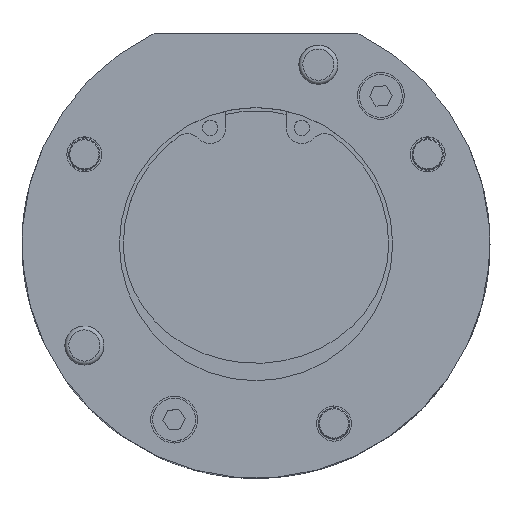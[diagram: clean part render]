
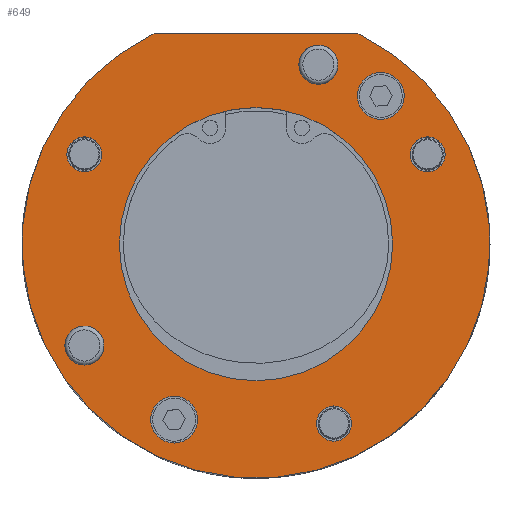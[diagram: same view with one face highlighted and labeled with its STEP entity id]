
A CAD part, top view. The second image highlights one B-rep face of the part: STEP entity #649.
In plain terms, the highlighted planar face has unit normal (0, 0, 1).
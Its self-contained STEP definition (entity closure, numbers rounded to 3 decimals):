
#649 = ADVANCED_FACE( '', ( #1283, #1284, #1285, #1286, #1287, #1288, #1289, #1290, #1291 ), #1292, .T. );
#1283 = FACE_BOUND( '', #2486, .T. );
#1284 = FACE_BOUND( '', #2487, .T. );
#1285 = FACE_BOUND( '', #2488, .T. );
#1286 = FACE_BOUND( '', #2489, .T. );
#1287 = FACE_BOUND( '', #2490, .T. );
#1288 = FACE_BOUND( '', #2491, .T. );
#1289 = FACE_OUTER_BOUND( '', #2492, .T. );
#1290 = FACE_BOUND( '', #2493, .T. );
#1291 = FACE_BOUND( '', #2494, .T. );
#1292 = PLANE( '', #2495 );
#2486 = EDGE_LOOP( '', ( #4058 ) );
#2487 = EDGE_LOOP( '', ( #4059 ) );
#2488 = EDGE_LOOP( '', ( #4060 ) );
#2489 = EDGE_LOOP( '', ( #4061 ) );
#2490 = EDGE_LOOP( '', ( #4062 ) );
#2491 = EDGE_LOOP( '', ( #4063 ) );
#2492 = EDGE_LOOP( '', ( #4064, #4065 ) );
#2493 = EDGE_LOOP( '', ( #4066 ) );
#2494 = EDGE_LOOP( '', ( #4067 ) );
#2495 = AXIS2_PLACEMENT_3D( '', #4068, #4069, #4070 );
#4058 = ORIENTED_EDGE( '', *, *, #5638, .T. );
#4059 = ORIENTED_EDGE( '', *, *, #5639, .T. );
#4060 = ORIENTED_EDGE( '', *, *, #5640, .T. );
#4061 = ORIENTED_EDGE( '', *, *, #5641, .F. );
#4062 = ORIENTED_EDGE( '', *, *, #5642, .F. );
#4063 = ORIENTED_EDGE( '', *, *, #5643, .F. );
#4064 = ORIENTED_EDGE( '', *, *, #5644, .F. );
#4065 = ORIENTED_EDGE( '', *, *, #5605, .T. );
#4066 = ORIENTED_EDGE( '', *, *, #5645, .F. );
#4067 = ORIENTED_EDGE( '', *, *, #5646, .T. );
#4068 = CARTESIAN_POINT( '', ( 0., 0., 0. ) );
#4069 = DIRECTION( '', ( 0., 0., 1. ) );
#4070 = DIRECTION( '', ( 1., 0., 0. ) );
#5605 = EDGE_CURVE( '', #6571, #6568, #6572, .T. );
#5638 = EDGE_CURVE( '', #6632, #6632, #6633, .F. );
#5639 = EDGE_CURVE( '', #6634, #6634, #6635, .T. );
#5640 = EDGE_CURVE( '', #6636, #6636, #6637, .T. );
#5641 = EDGE_CURVE( '', #6638, #6638, #6639, .T. );
#5642 = EDGE_CURVE( '', #6640, #6640, #6641, .T. );
#5643 = EDGE_CURVE( '', #6642, #6642, #6643, .T. );
#5644 = EDGE_CURVE( '', #6571, #6568, #6644, .T. );
#5645 = EDGE_CURVE( '', #6645, #6645, #6646, .T. );
#5646 = EDGE_CURVE( '', #6647, #6647, #6648, .F. );
#6568 = VERTEX_POINT( '', #8055 );
#6571 = VERTEX_POINT( '', #8059 );
#6572 = CIRCLE( '', #8060, 30. );
#6632 = VERTEX_POINT( '', #8775 );
#6633 = CIRCLE( '', #8776, 2.5 );
#6634 = VERTEX_POINT( '', #8777 );
#6635 = CIRCLE( '', #8778, 3. );
#6636 = VERTEX_POINT( '', #8779 );
#6637 = CIRCLE( '', #8780, 3. );
#6638 = VERTEX_POINT( '', #8781 );
#6639 = CIRCLE( '', #8782, 2.25 );
#6640 = VERTEX_POINT( '', #8783 );
#6641 = CIRCLE( '', #8784, 2.25 );
#6642 = VERTEX_POINT( '', #8785 );
#6643 = CIRCLE( '', #8786, 2.25 );
#6644 = LINE( '', #8787, #8788 );
#6645 = VERTEX_POINT( '', #8789 );
#6646 = CIRCLE( '', #8790, 17.518 );
#6647 = VERTEX_POINT( '', #8791 );
#6648 = CIRCLE( '', #8792, 2.5 );
#8055 = CARTESIAN_POINT( '', ( 13.077, 27., 0. ) );
#8059 = CARTESIAN_POINT( '', ( -13.077, 27., 0. ) );
#8060 = AXIS2_PLACEMENT_3D( '', #10380, #10381, #10382 );
#8775 = CARTESIAN_POINT( '', ( -19.5, -13., 0. ) );
#8776 = AXIS2_PLACEMENT_3D( '', #10424, #10425, #10426 );
#8777 = CARTESIAN_POINT( '', ( 16., 16., 0. ) );
#8778 = AXIS2_PLACEMENT_3D( '', #10427, #10428, #10429 );
#8779 = CARTESIAN_POINT( '', ( -10.5, -25.5, 0. ) );
#8780 = AXIS2_PLACEMENT_3D( '', #10430, #10431, #10432 );
#8781 = CARTESIAN_POINT( '', ( -19.75, 11.5, 0. ) );
#8782 = AXIS2_PLACEMENT_3D( '', #10433, #10434, #10435 );
#8783 = CARTESIAN_POINT( '', ( 12.25, -23., 0. ) );
#8784 = AXIS2_PLACEMENT_3D( '', #10436, #10437, #10438 );
#8785 = CARTESIAN_POINT( '', ( 24.25, 11.5, 0. ) );
#8786 = AXIS2_PLACEMENT_3D( '', #10439, #10440, #10441 );
#8787 = CARTESIAN_POINT( '', ( -27.448, 27., 0. ) );
#8788 = VECTOR( '', #10442, 1000. );
#8789 = CARTESIAN_POINT( '', ( 17.518, 0., 0. ) );
#8790 = AXIS2_PLACEMENT_3D( '', #10443, #10444, #10445 );
#8791 = CARTESIAN_POINT( '', ( 10.5, 23., 0. ) );
#8792 = AXIS2_PLACEMENT_3D( '', #10446, #10447, #10448 );
#10380 = CARTESIAN_POINT( '', ( 0., 0., 0. ) );
#10381 = DIRECTION( '', ( 0., 0., 1. ) );
#10382 = DIRECTION( '', ( 1., 0., 0. ) );
#10424 = CARTESIAN_POINT( '', ( -22., -13., 0. ) );
#10425 = DIRECTION( '', ( 0., 0., 1. ) );
#10426 = DIRECTION( '', ( 1., 0., 0. ) );
#10427 = CARTESIAN_POINT( '', ( 16., 19., 0. ) );
#10428 = DIRECTION( '', ( 0., 0., -1. ) );
#10429 = DIRECTION( '', ( 0., -1., 0. ) );
#10430 = CARTESIAN_POINT( '', ( -10.5, -22.5, 0. ) );
#10431 = DIRECTION( '', ( 0., 0., -1. ) );
#10432 = DIRECTION( '', ( 0., -1., 0. ) );
#10433 = CARTESIAN_POINT( '', ( -22., 11.5, 0. ) );
#10434 = DIRECTION( '', ( 0., 0., 1. ) );
#10435 = DIRECTION( '', ( 1., 0., 0. ) );
#10436 = CARTESIAN_POINT( '', ( 10., -23., 0. ) );
#10437 = DIRECTION( '', ( 0., 0., 1. ) );
#10438 = DIRECTION( '', ( 1., 0., 0. ) );
#10439 = CARTESIAN_POINT( '', ( 22., 11.5, 0. ) );
#10440 = DIRECTION( '', ( 0., 0., 1. ) );
#10441 = DIRECTION( '', ( 1., 0., 0. ) );
#10442 = DIRECTION( '', ( 1., 0., 0. ) );
#10443 = CARTESIAN_POINT( '', ( 0., 0., 0. ) );
#10444 = DIRECTION( '', ( 0., 0., 1. ) );
#10445 = DIRECTION( '', ( 1., 0., 0. ) );
#10446 = CARTESIAN_POINT( '', ( 8., 23., 0. ) );
#10447 = DIRECTION( '', ( 0., 0., 1. ) );
#10448 = DIRECTION( '', ( 1., 0., 0. ) );
